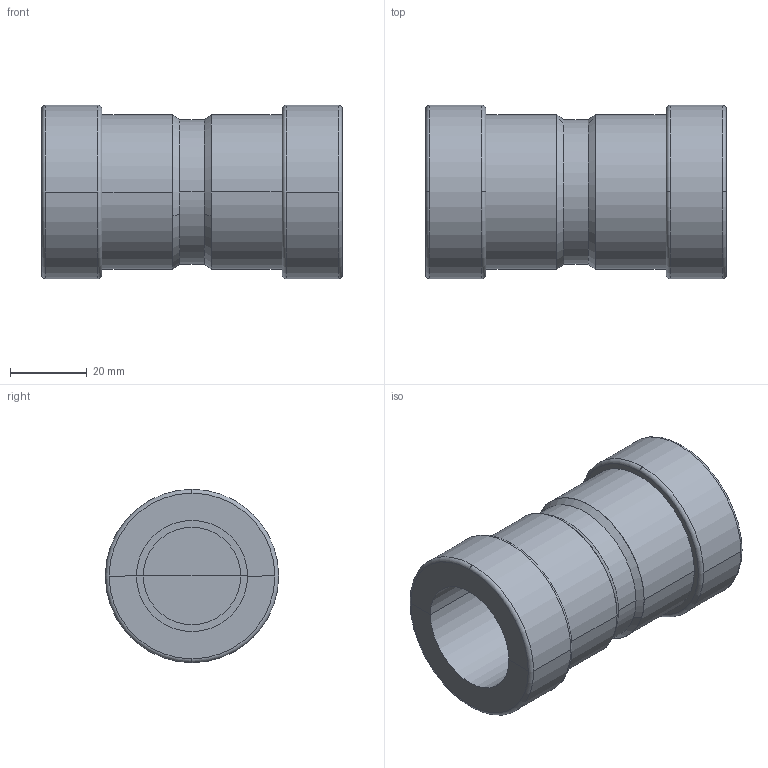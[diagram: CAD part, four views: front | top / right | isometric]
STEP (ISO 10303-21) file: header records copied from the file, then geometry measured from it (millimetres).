
FILE_DESCRIPTION (( 'STEP AP203' ), '1' );
FILE_NAME ('Viega_MegaPress FKM_Coupling, Transition 5915ZL - 1in.STEP', '2025-02-21T22:22:54', ( '' ), ( '' ), 'SwSTEP 2.0', 'SolidWorks 2020', '' );
FILE_SCHEMA (( 'CONFIG_CONTROL_DESIGN' ));
Length unit declared in the file: millimetre
Products named in the file (1): Viega_MegaPress FKM_Coupling, Transition 5915ZL - 1in
Bounding box: 78.4 x 45.2 x 45.2 mm (x, y, z)
Volume: 68894 mm3; surface area: 25579.2 mm2
Topology: 5 solids, 5 shells, 50 faces, 116 edges, 72 vertices
Faces by surface type: plane 20, cylinder 18, torus 8, cone 4
Entity records: 1529 total; most frequent: DIRECTION 298, CARTESIAN_POINT 239, ORIENTED_EDGE 232, AXIS2_PLACEMENT_3D 131, EDGE_CURVE 116, CIRCLE 80, VERTEX_POINT 72, ADVANCED_FACE 50
